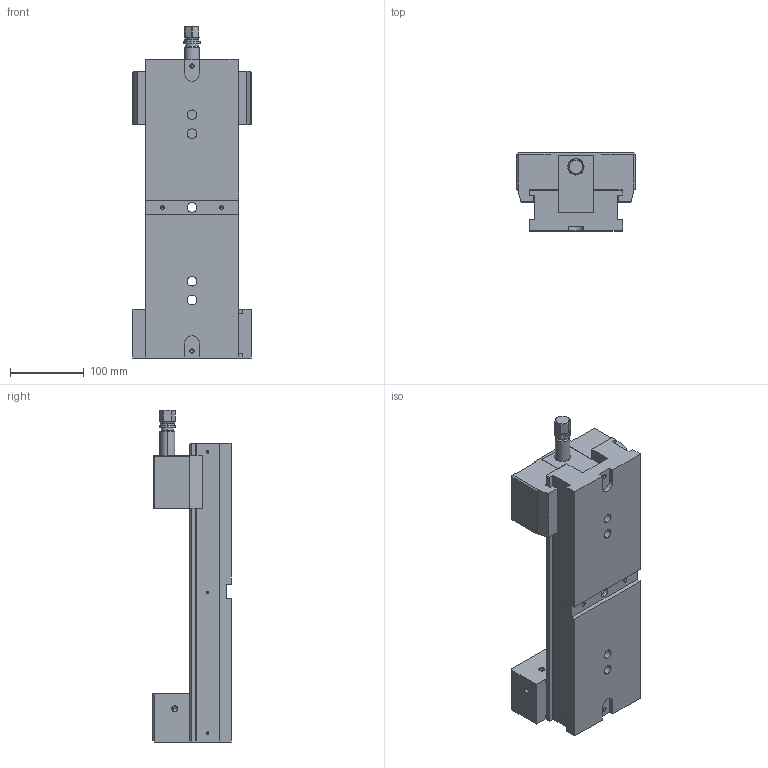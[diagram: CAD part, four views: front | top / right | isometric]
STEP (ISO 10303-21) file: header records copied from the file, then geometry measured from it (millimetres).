
FILE_DESCRIPTION((''),'2;1');
FILE_NAME('BASIC_VICE_160_ASM_ASM_ASM','2026-06-09T10:39:03',('Admin'),(''),'CREO PARAMETRIC BY PTC INC, 2025010','CREO PARAMETRIC BY PTC INC, 2025010','');
FILE_SCHEMA(('CONFIG_CONTROL_DESIGN'));
Length unit declared in the file: inch
Products named in the file (4): BODY-160_1; MOVABLE_JAW_160_4; BASIC_VICE_160_ASM_ASM_7_ASM; BASIC_VICE_160_ASM_ASM_ASM
Assembly tree (3 placements, depth 3):
  BASIC_VICE_160_ASM_ASM_ASM
    BASIC_VICE_160_ASM_ASM_7_ASM
      BODY-160_1
      MOVABLE_JAW_160_4
Bounding box: 160.1 x 105.7 x 449.8 mm (x, y, z)
Volume: 3262307.9 mm3; surface area: 352425.7 mm2
Topology: 2 solids, 36 shells, 524 faces, 1375 edges, 881 vertices
Faces by surface type: plane 222, cylinder 211, cone 86, torus 4, sphere 1
Entity records: 16692 total; most frequent: CARTESIAN_POINT 3624, DIRECTION 2803, ORIENTED_EDGE 2522, EDGE_CURVE 1321, AXIS2_PLACEMENT_3D 1031, VERTEX_POINT 881, VECTOR 741, LINE 741
